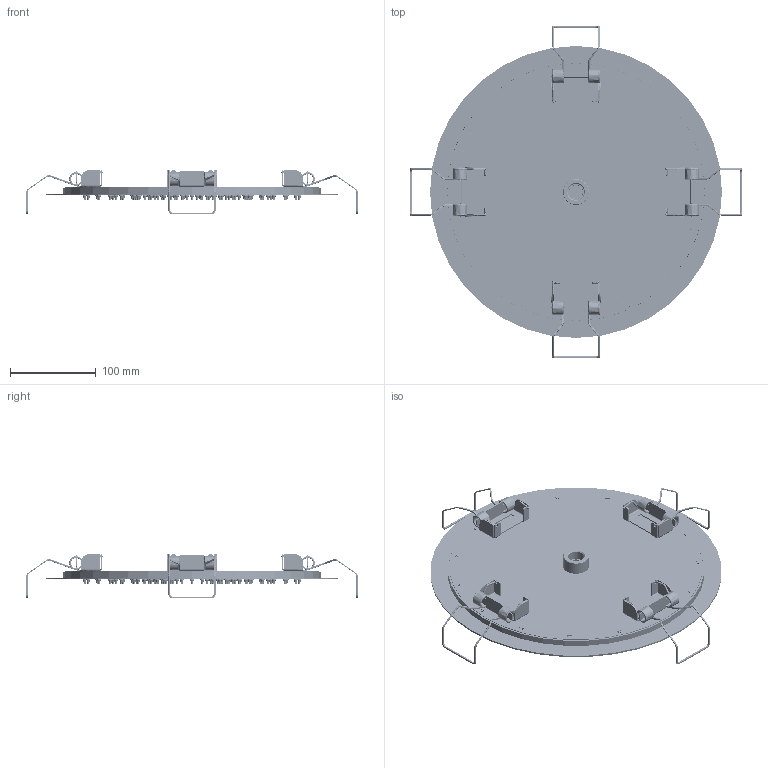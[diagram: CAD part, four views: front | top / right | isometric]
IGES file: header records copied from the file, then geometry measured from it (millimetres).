
Start section:  PTC IGES file: 90904.igs
Global section: file name: 90904.igs; native system: Creo Parametric by PTC Inc.; preprocessor: 2022014; author: carloff; organization: Unknown; date: 20260305.145818; units: millimetre
Bounding box: 386.67 x 386.67 x 52.06 mm (x, y, z)
Surface area: 359605.5 mm2 (no closed solid volume)
Topology: 0 solids, 0 shells, 5644 faces, 25128 edges, 25080 vertices
Faces by surface type: revolution 4662, bspline 982
